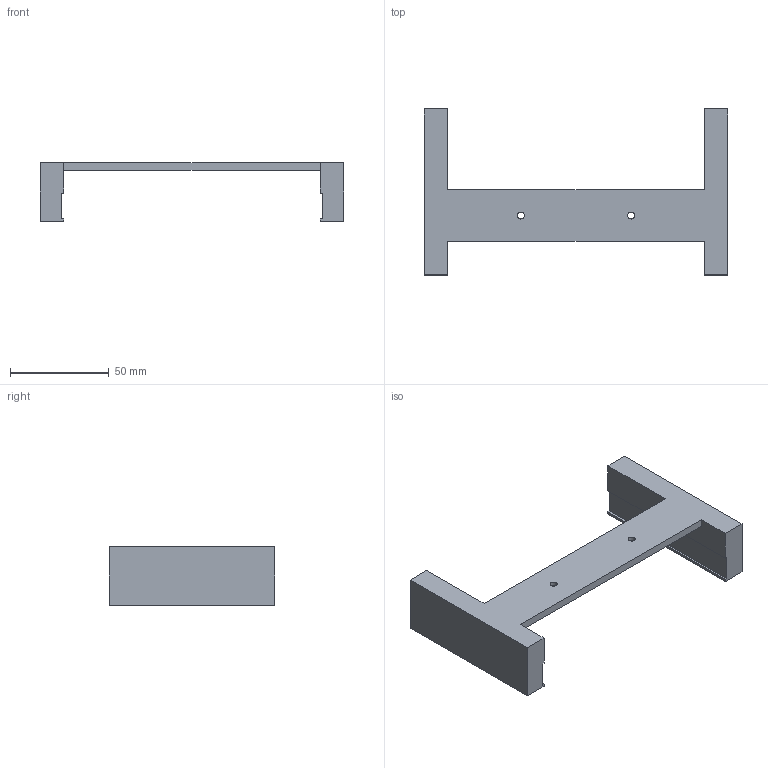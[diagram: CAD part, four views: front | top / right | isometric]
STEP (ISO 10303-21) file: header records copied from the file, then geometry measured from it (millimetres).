
FILE_DESCRIPTION(('Open CASCADE Model'),'2;1');
FILE_NAME('Open CASCADE Shape Model','2026-09-29T12:47:59',('Author'),( 'Open CASCADE'),'Open CASCADE STEP processor 7.9','Open CASCADE 7.9' ,'Unknown');
FILE_SCHEMA(('AUTOMOTIVE_DESIGN { 1 0 10303 214 1 1 1 1 }'));
Length unit declared in the file: millimetre
Products named in the file (1): Open CASCADE STEP translator 7.9 16
Bounding box: 154 x 84.2 x 29.9 mm (x, y, z)
Volume: 70075.7 mm3; surface area: 23721 mm2
Topology: 1 solids, 1 shells, 28 faces, 72 edges, 48 vertices
Faces by surface type: plane 24, cylinder 4
Full cylindrical faces by diameter (mm): 3.5 x2, 20.4 x2
Entity records: 1780 total; most frequent: CARTESIAN_POINT 365, DIRECTION 240, LINE 164, VECTOR 164, ORIENTED_EDGE 144, PCURVE 144, DEFINITIONAL_REPRESENTATION 144, EDGE_CURVE 72
